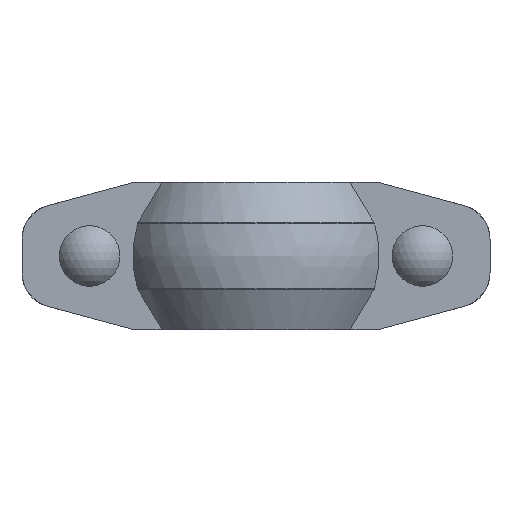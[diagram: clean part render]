
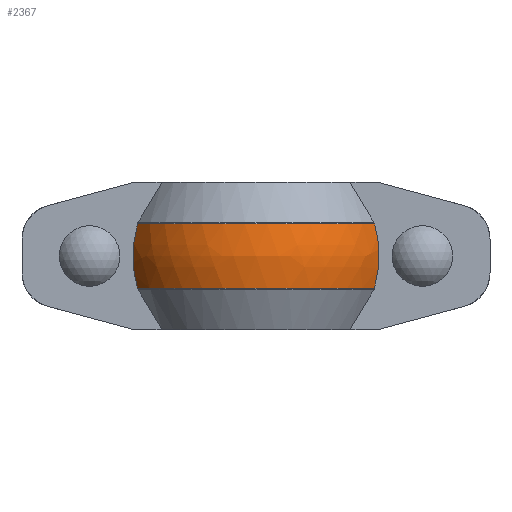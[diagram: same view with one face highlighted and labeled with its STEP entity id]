
A CAD part, front view. The second image highlights one B-rep face of the part: STEP entity #2367.
In plain terms, the highlighted free-form (B-spline) face has degree [2, 2] with [3, 5] control points.
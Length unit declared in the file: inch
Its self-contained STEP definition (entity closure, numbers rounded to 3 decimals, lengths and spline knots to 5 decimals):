
#45=(
BOUNDED_SURFACE()
B_SPLINE_SURFACE(2,2,((#4627,#4628,#4629,#4630,#4631),(#4632,#4633,#4634,
#4635,#4636),(#4637,#4638,#4639,#4640,#4641)),.UNSPECIFIED.,.F.,.F.,.F.)
B_SPLINE_SURFACE_WITH_KNOTS((3,3),(3,2,3),(-0.25314,0.25314),
(0.478,1.5708,2.6636),.UNSPECIFIED.)
GEOMETRIC_REPRESENTATION_ITEM()
RATIONAL_B_SPLINE_SURFACE(((1.,0.854,1.,0.854,1.),
(0.968,0.827,0.968,0.827,
0.968),(1.,0.854,1.,0.854,1.)))
REPRESENTATION_ITEM('')
SURFACE()
);
#80=B_SPLINE_CURVE_WITH_KNOTS('',3,(#4549,#4550,#4551,#4552,#4553,#4554,
#4555,#4556,#4557,#4558),.UNSPECIFIED.,.F.,.F.,(4,2,2,2,4),(18.40641,
18.89773,19.52083,20.14393,20.63524),
 .UNSPECIFIED.);
#83=B_SPLINE_CURVE_WITH_KNOTS('',3,(#4592,#4593,#4594,#4595,#4596,#4597,
#4598,#4599,#4600,#4601),.UNSPECIFIED.,.F.,.F.,(4,2,2,2,4),(5.39253,
5.88384,6.50694,7.13004,7.62136),
 .UNSPECIFIED.);
#322=FACE_OUTER_BOUND('',#459,.T.);
#459=EDGE_LOOP('',(#2056,#2057,#2058,#2059));
#881=CIRCLE('',#2618,1.94118);
#885=CIRCLE('',#2624,1.94118);
#1088=VERTEX_POINT('',#4541);
#1089=VERTEX_POINT('',#4548);
#1095=VERTEX_POINT('',#4584);
#1096=VERTEX_POINT('',#4591);
#1401=EDGE_CURVE('',#1089,#1088,#80,.T.);
#1411=EDGE_CURVE('',#1096,#1095,#83,.T.);
#1418=EDGE_CURVE('',#1096,#1088,#881,.T.);
#1422=EDGE_CURVE('',#1089,#1095,#885,.T.);
#2056=ORIENTED_EDGE('',*,*,#1411,.T.);
#2057=ORIENTED_EDGE('',*,*,#1422,.F.);
#2058=ORIENTED_EDGE('',*,*,#1401,.T.);
#2059=ORIENTED_EDGE('',*,*,#1418,.F.);
#2367=ADVANCED_FACE('',(#322),#45,.F.);
#2618=AXIS2_PLACEMENT_3D('',#4621,#3262,#3263);
#2624=AXIS2_PLACEMENT_3D('',#4642,#3274,#3275);
#3262=DIRECTION('center_axis',(0.,0.,1.));
#3263=DIRECTION('ref_axis',(0.,1.,0.));
#3274=DIRECTION('center_axis',(0.,0.,-1.));
#3275=DIRECTION('ref_axis',(0.,1.,0.));
#4541=CARTESIAN_POINT('',(1.70933,-0.92,0.4622));
#4548=CARTESIAN_POINT('',(1.70933,-0.92,-0.4622));
#4549=CARTESIAN_POINT('Ctrl Pts',(1.70933,-0.92,-0.4622));
#4550=CARTESIAN_POINT('Ctrl Pts',(1.72815,-0.92,-0.39813));
#4551=CARTESIAN_POINT('Ctrl Pts',(1.74398,-0.92,-0.32923));
#4552=CARTESIAN_POINT('Ctrl Pts',(1.76931,-0.92,-0.1713));
#4553=CARTESIAN_POINT('Ctrl Pts',(1.77584,-0.92,-0.08177));
#4554=CARTESIAN_POINT('Ctrl Pts',(1.77584,-0.92,0.08177));
#4555=CARTESIAN_POINT('Ctrl Pts',(1.76931,-0.92,0.1713));
#4556=CARTESIAN_POINT('Ctrl Pts',(1.74398,-0.92,0.32923));
#4557=CARTESIAN_POINT('Ctrl Pts',(1.72815,-0.92,0.39813));
#4558=CARTESIAN_POINT('Ctrl Pts',(1.70933,-0.92,0.4622));
#4584=CARTESIAN_POINT('',(-1.70933,-0.92,-0.4622));
#4591=CARTESIAN_POINT('',(-1.70933,-0.92,0.4622));
#4592=CARTESIAN_POINT('Ctrl Pts',(-1.70933,-0.92,0.4622));
#4593=CARTESIAN_POINT('Ctrl Pts',(-1.72815,-0.92,0.39813));
#4594=CARTESIAN_POINT('Ctrl Pts',(-1.74398,-0.92,0.32923));
#4595=CARTESIAN_POINT('Ctrl Pts',(-1.76931,-0.92,0.1713));
#4596=CARTESIAN_POINT('Ctrl Pts',(-1.77584,-0.92,0.08177));
#4597=CARTESIAN_POINT('Ctrl Pts',(-1.77584,-0.92,-0.08177));
#4598=CARTESIAN_POINT('Ctrl Pts',(-1.76931,-0.92,-0.1713));
#4599=CARTESIAN_POINT('Ctrl Pts',(-1.74398,-0.92,-0.32923));
#4600=CARTESIAN_POINT('Ctrl Pts',(-1.72815,-0.92,-0.39813));
#4601=CARTESIAN_POINT('Ctrl Pts',(-1.70933,-0.92,-0.4622));
#4621=CARTESIAN_POINT('Origin',(0.,0.,0.4622));
#4627=CARTESIAN_POINT('Ctrl Pts',(1.72361,-0.89294,0.4622));
#4628=CARTESIAN_POINT('Ctrl Pts',(1.18056,-1.94118,0.4622));
#4629=CARTESIAN_POINT('Ctrl Pts',(0.,-1.94118,
0.4622));
#4630=CARTESIAN_POINT('Ctrl Pts',(-1.18056,-1.94118,0.4622));
#4631=CARTESIAN_POINT('Ctrl Pts',(-1.72361,-0.89294,
0.4622));
#4632=CARTESIAN_POINT('Ctrl Pts',(1.82978,-0.94795,0.));
#4633=CARTESIAN_POINT('Ctrl Pts',(1.25327,-2.06075,0.));
#4634=CARTESIAN_POINT('Ctrl Pts',(0.,-2.06075,
0.));
#4635=CARTESIAN_POINT('Ctrl Pts',(-1.25327,-2.06075,0.));
#4636=CARTESIAN_POINT('Ctrl Pts',(-1.82978,-0.94795,
0.));
#4637=CARTESIAN_POINT('Ctrl Pts',(1.72361,-0.89294,-0.4622));
#4638=CARTESIAN_POINT('Ctrl Pts',(1.18056,-1.94118,-0.4622));
#4639=CARTESIAN_POINT('Ctrl Pts',(0.,-1.94118,
-0.4622));
#4640=CARTESIAN_POINT('Ctrl Pts',(-1.18056,-1.94118,-0.4622));
#4641=CARTESIAN_POINT('Ctrl Pts',(-1.72361,-0.89294,
-0.4622));
#4642=CARTESIAN_POINT('Origin',(0.,0.,-0.4622));
